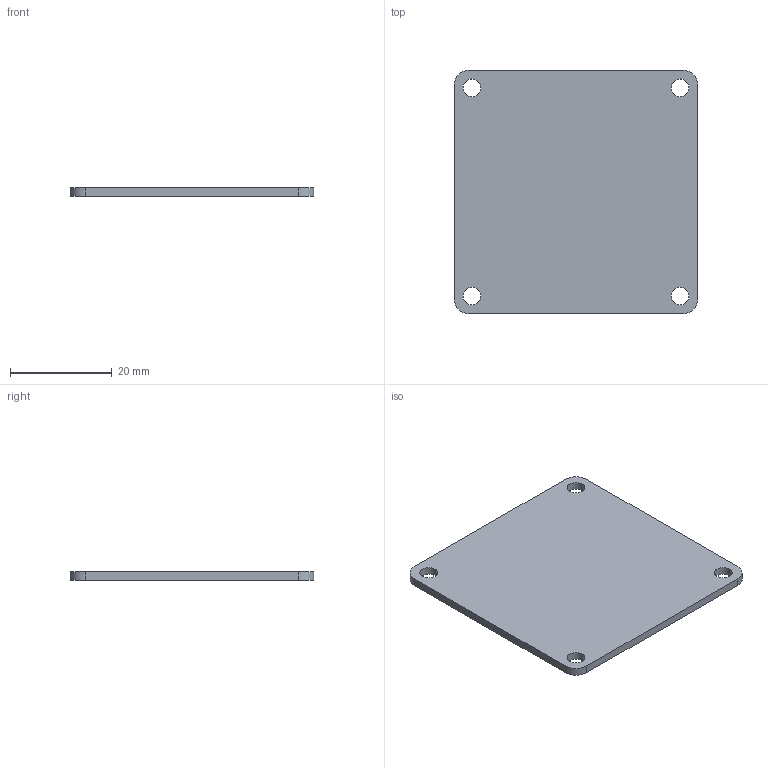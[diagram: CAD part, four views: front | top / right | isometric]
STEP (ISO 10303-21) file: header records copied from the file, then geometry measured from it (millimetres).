
FILE_DESCRIPTION(('Open CASCADE Model'),'2;1');
FILE_NAME('Open CASCADE Shape Model','2026-08-15T14:45:39',('Author'),( 'Open CASCADE'),'Open CASCADE STEP processor 7.7','Open CASCADE 7.7' ,'Unknown');
FILE_SCHEMA(('AUTOMOTIVE_DESIGN { 1 0 10303 214 1 1 1 1 }'));
Length unit declared in the file: millimetre
Products named in the file (1): Open CASCADE STEP translator 7.7 1
Bounding box: 48 x 48 x 1.6 mm (x, y, z)
Volume: 3612.5 mm3; surface area: 4884.9 mm2
Topology: 1 solids, 1 shells, 14 faces, 36 edges, 24 vertices
Faces by surface type: cylinder 8, plane 6
Full cylindrical faces by diameter (mm): 3.5 x4
Entity records: 930 total; most frequent: DIRECTION 154, CARTESIAN_POINT 147, LINE 76, VECTOR 76, ORIENTED_EDGE 72, PCURVE 72, DEFINITIONAL_REPRESENTATION 72, EDGE_CURVE 36
